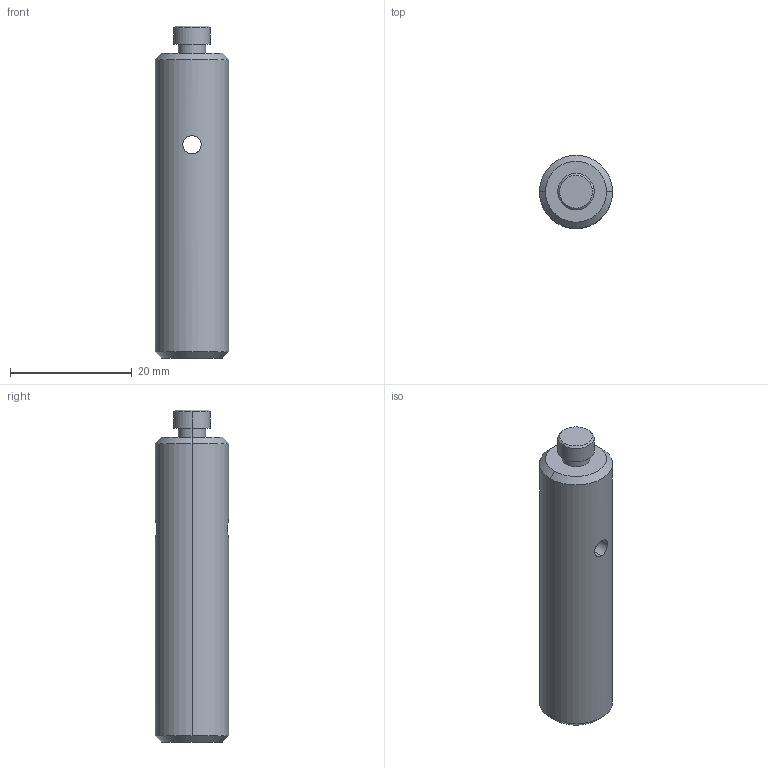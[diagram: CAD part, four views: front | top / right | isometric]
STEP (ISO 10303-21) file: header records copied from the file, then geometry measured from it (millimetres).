
FILE_DESCRIPTION (( 'STEP AP203' ), '1' );
FILE_NAME ('PHSP12-2.step', '2019-05-09T09:07:44', ( '' ), ( '' ), 'SwSTEP 2.0', 'SolidWorks 2016', '' );
FILE_SCHEMA (( 'CONFIG_CONTROL_DESIGN' ));
Length unit declared in the file: millimetre
Products named in the file (1): PHSP12-2
Bounding box: 12 x 12 x 54.5 mm (x, y, z)
Volume: 5319 mm3; surface area: 2515.1 mm2
Topology: 1 solids, 1 shells, 22 faces, 46 edges, 27 vertices
Faces by surface type: cylinder 10, cone 8, plane 4
Entity records: 751 total; most frequent: CARTESIAN_POINT 198, DIRECTION 108, ORIENTED_EDGE 88, AXIS2_PLACEMENT_3D 45, EDGE_CURVE 44, EDGE_LOOP 27, VERTEX_POINT 27, FACE_OUTER_BOUND 22
